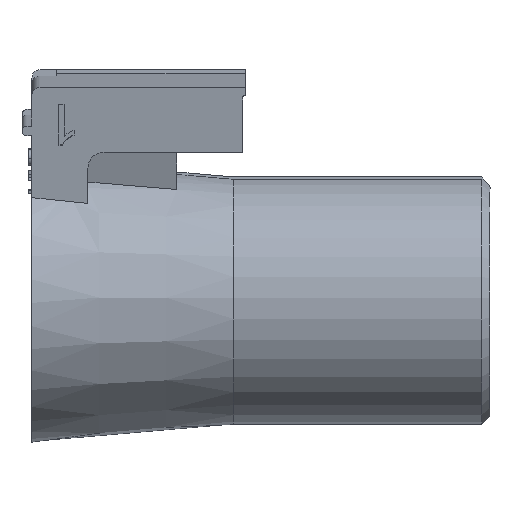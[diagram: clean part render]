
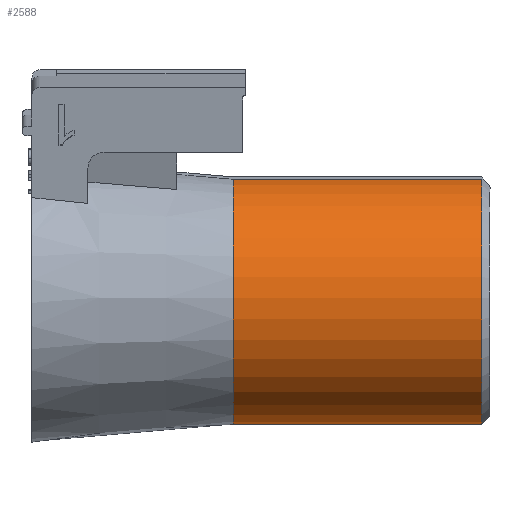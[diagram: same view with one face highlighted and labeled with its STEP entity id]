
A CAD part, front view. The second image highlights one B-rep face of the part: STEP entity #2588.
In plain terms, the highlighted cylindrical face has radius 7.5 mm (diameter 15 mm), a partial arc.
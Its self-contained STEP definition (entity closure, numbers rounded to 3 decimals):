
#44=CYLINDRICAL_SURFACE('',#2751,7.5);
#79=CIRCLE('',#2731,7.5);
#87=CIRCLE('',#2750,7.5);
#403=FACE_OUTER_BOUND('',#547,.T.);
#547=EDGE_LOOP('',(#2301,#2302,#2303,#2304));
#768=LINE('',#4299,#1012);
#796=LINE('',#4393,#1040);
#1012=VECTOR('',#3160,10.);
#1040=VECTOR('',#3252,10.);
#1319=VERTEX_POINT('',#4296);
#1320=VERTEX_POINT('',#4298);
#1329=VERTEX_POINT('',#4330);
#1344=VERTEX_POINT('',#4388);
#1640=EDGE_CURVE('',#1320,#1319,#768,.T.);
#1657=EDGE_CURVE('',#1329,#1319,#79,.T.);
#1684=EDGE_CURVE('',#1320,#1344,#87,.T.);
#1685=EDGE_CURVE('',#1344,#1329,#796,.T.);
#2301=ORIENTED_EDGE('',*,*,#1685,.F.);
#2302=ORIENTED_EDGE('',*,*,#1684,.F.);
#2303=ORIENTED_EDGE('',*,*,#1640,.T.);
#2304=ORIENTED_EDGE('',*,*,#1657,.F.);
#2588=ADVANCED_FACE('',(#403),#44,.T.);
#2731=AXIS2_PLACEMENT_3D('',#4335,#3194,#3195);
#2750=AXIS2_PLACEMENT_3D('',#4391,#3248,#3249);
#2751=AXIS2_PLACEMENT_3D('',#4392,#3250,#3251);
#3160=DIRECTION('',(-1.,0.,0.));
#3194=DIRECTION('center_axis',(-1.,0.,0.));
#3195=DIRECTION('ref_axis',(0.,-0.985,-0.174));
#3248=DIRECTION('center_axis',(1.,0.,0.));
#3249=DIRECTION('ref_axis',(0.,0.985,0.174));
#3250=DIRECTION('center_axis',(-1.,0.,0.));
#3251=DIRECTION('ref_axis',(0.,-0.985,-0.174));
#3252=DIRECTION('',(-1.,0.,0.));
#4296=CARTESIAN_POINT('',(11.43,-1.719,7.35));
#4298=CARTESIAN_POINT('',(26.5,-1.719,7.35));
#4299=CARTESIAN_POINT('',(19.215,-1.719,7.35));
#4330=CARTESIAN_POINT('',(11.43,0.445,-7.487));
#4335=CARTESIAN_POINT('Origin',(11.43,-0.417,-0.036));
#4388=CARTESIAN_POINT('',(26.5,0.445,-7.487));
#4391=CARTESIAN_POINT('Origin',(26.5,-0.417,-0.036));
#4392=CARTESIAN_POINT('Origin',(19.215,-0.417,-0.036));
#4393=CARTESIAN_POINT('',(19.215,0.445,-7.487));
